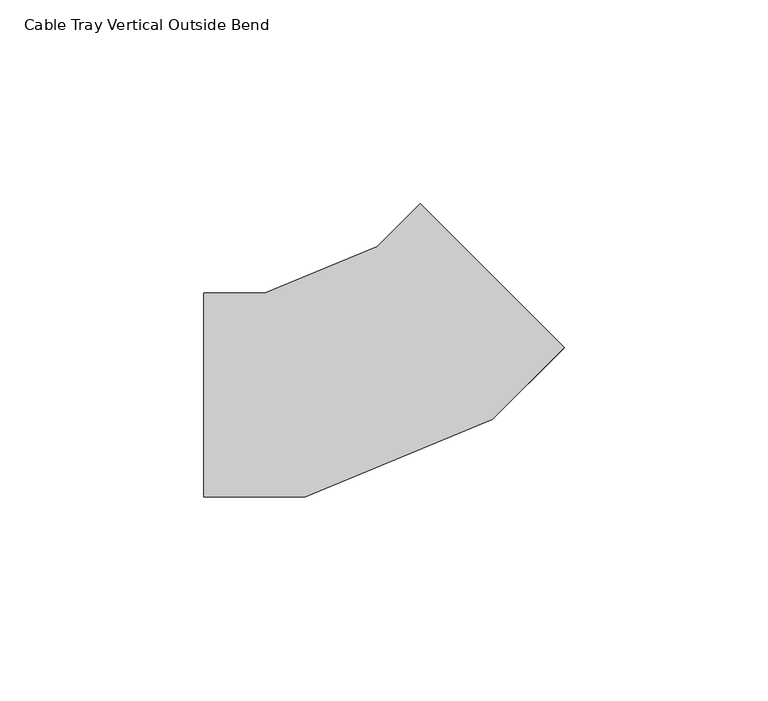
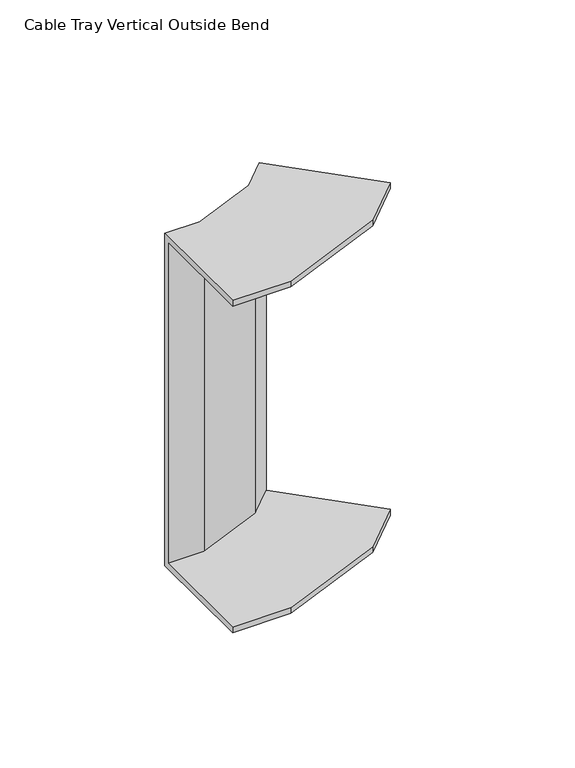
"""IFC4 building model written with IfcOpenShell, lengths in millimetres: cable carrier fitting geometry, Cable Tray Vertical Outside Bend : ELEC_ELV_CT_N2402."""

from ifc_helpers import new_model, si_unit, origin, place, context, project, spatial, faceted_brep, source, transform, mapped, element, save


def cable_tray_vertical_outside_bend_ce2e8d87(model_context):
    return source(origin(), model_context, "Body", "Brep", [
        faceted_brep([(-41.4213562, -25.0, 75.0), (-41.4213562, 25.0, 75.0), (-41.4213562, 25.0, -75.0), (-41.4213562, -25.0, -75.0), (-41.4213562, -25.0, -72.46), (-41.4213562, 22.46, -72.46), (-41.4213562, 22.46, 72.46), (-41.4213562, -25.0, 72.46), (46.9669914, 11.6116524, 75.0), (46.9669914, 11.6116524, 72.46), (13.4077036, 45.1709402, 72.46), (13.4077036, 45.1709402, -72.46), (46.9669914, 11.6116524, -72.46), (46.9669914, 11.6116524, -75.0), (11.6116524, 46.9669914, -75.0), (11.6116524, 46.9669914, 75.0), (-16.5573103, -25.0, 75.0), (29.3854559, -5.9698831, 75.0), (1.0627311, 36.4180701, 75.0), (-26.5029287, 25.0, 75.0), (-26.5029287, 25.0, -75.0), (1.0627311, 36.4180701, -75.0), (29.3854559, -5.9698831, -75.0), (-16.5573103, -25.0, -75.0), (-16.5573103, -25.0, -72.46), (29.3854559, -5.9698831, -72.46), (2.5015255, 34.2647621, -72.46), (-25.9976913, 22.46, -72.46), (-25.9976913, 22.46, 72.46), (2.5015255, 34.2647621, 72.46), (29.3854559, -5.9698831, 72.46), (-16.5573103, -25.0, 72.46)], [[[0, 1, 2, 3, 4, 5, 6, 7]], [[8, 9, 10, 11, 12, 13, 14, 15]], [[1, 0, 16, 17, 8, 15, 18, 19]], [[2, 1, 19, 20]], [[3, 2, 20, 21, 14, 13, 22, 23]], [[4, 3, 23, 24]], [[5, 4, 24, 25, 12, 11, 26, 27]], [[6, 5, 27, 28]], [[7, 6, 28, 29, 10, 9, 30, 31]], [[0, 7, 31, 16]], [[20, 19, 18, 21]], [[24, 23, 22, 25]], [[28, 27, 26, 29]], [[16, 31, 30, 17]], [[21, 18, 15, 14]], [[25, 22, 13, 12]], [[29, 26, 11, 10]], [[17, 30, 9, 8]]]),
    ])


if __name__ == "__main__":
    model = new_model("IFC4")
    model_context = context("Model", 3, world=origin())
    ifc_project = project(units=[si_unit("LENGTHUNIT", "METRE", prefix="MILLI")], contexts=[model_context])
    site = spatial("IfcSite", under=ifc_project)
    building = spatial("IfcBuilding", under=site)
    placement = place(None, origin())
    cable_tray_vertical_outside_bend_shape = cable_tray_vertical_outside_bend_ce2e8d87(model_context)
    element("IfcCableCarrierFitting", 1, ObjectType="Cable Tray Vertical Outside Bend : ELEC_ELV_CT_N2402", at=placement, inside=building, context=model_context, shape_type="MappedRepresentation", body=[
        mapped(cable_tray_vertical_outside_bend_shape, transform((0.0, 0.0, 0.0), x_axis=(1.0, 0.0, 0.0), y_axis=(0.0, 1.0, 0.0), z_axis=(0.0, 0.0, 1.0))),
    ])
    save(model, "model.ifc")
